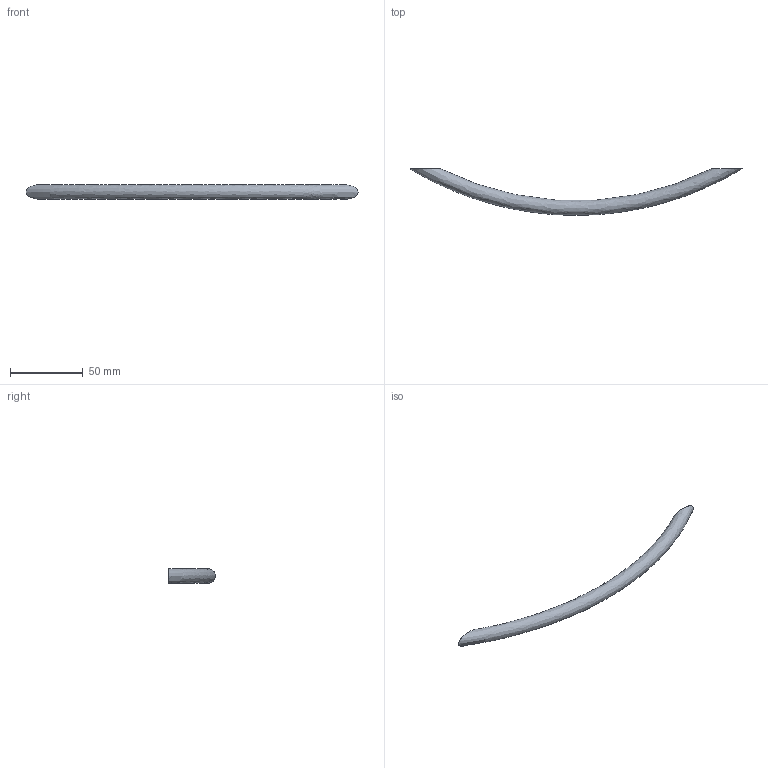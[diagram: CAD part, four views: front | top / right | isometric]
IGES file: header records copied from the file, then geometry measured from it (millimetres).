
Start section: Data from Parasolid IGES Translator 15.0.47, Copyright(c) 2006 Siemens P LM Software. All Rights Reserved.
Global section: file name:  9070457.igs; native system:  By UGS Corp.; preprocessor: XPlus GENERIC/IGES 3.0; author: Noname; organization: Noname; date: 20140122.155211; units: millimetre
Bounding box: 228 x 31.96 x 10 mm (x, y, z)
Surface area: 7296.6 mm2 (no closed solid volume)
Topology: 0 solids, 0 shells, 7 faces, 18 edges, 14 vertices
Faces by surface type: extrusion 4, revolution 3
